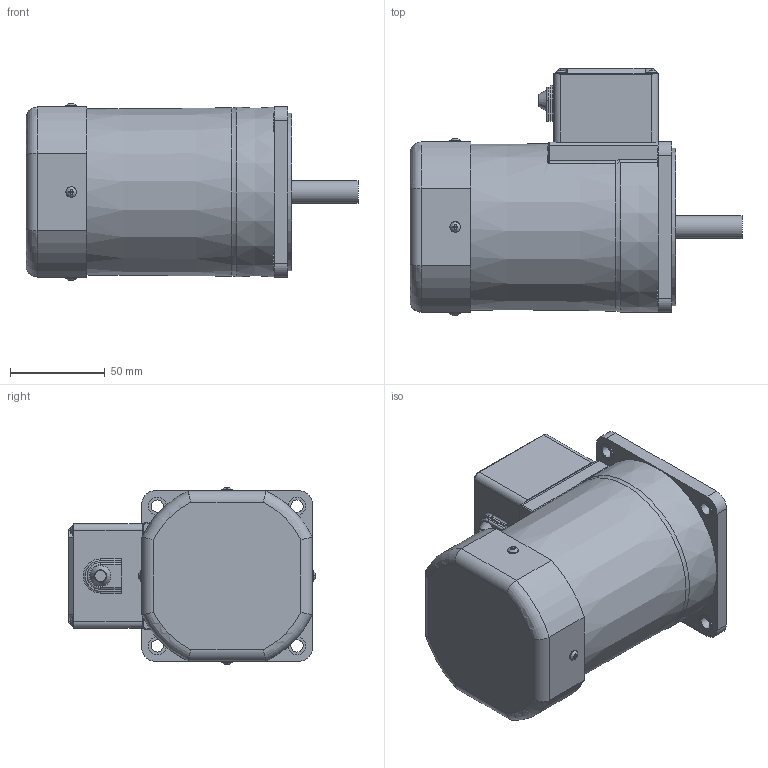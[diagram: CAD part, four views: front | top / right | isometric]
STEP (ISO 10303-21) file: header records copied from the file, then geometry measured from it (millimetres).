
FILE_DESCRIPTION((''),'2;1');
FILE_NAME('D:\STP파일\90W MOTOR\T1 BOX TYPE\S9I90G-T1.stp','2013-05-20T18:24:06',('leebh'),(''),'Autodesk Inventor 2011','Autodesk Inventor 2011','');
FILE_SCHEMA(('AUTOMOTIVE_DESIGN { 1 0 10303 214 1 1 1 1 }'));
Length unit declared in the file: millimetre
Products named in the file (1): S9I90G-T1
Bounding box: 174.8 x 130.44 x 93.49 mm (x, y, z)
Volume: 1013523.3 mm3; surface area: 71310.5 mm2
Topology: 1 solids, 6 shells, 321 faces, 801 edges, 510 vertices
Faces by surface type: plane 185, cylinder 74, bspline 28, torus 27, cone 7
Full cylindrical faces by diameter (mm): 3 x4, 3.5 x4, 5.6 x8, 6.5 x4, 8 x1, 9.5 x4, 12 x1, 40 x1, 83 x1
Entity records: 10395 total; most frequent: CARTESIAN_POINT 3064, ORIENTED_EDGE 1460, DIRECTION 1375, EDGE_CURVE 730, VERTEX_POINT 500, AXIS2_PLACEMENT_3D 495, EDGE_LOOP 416, VECTOR 385
